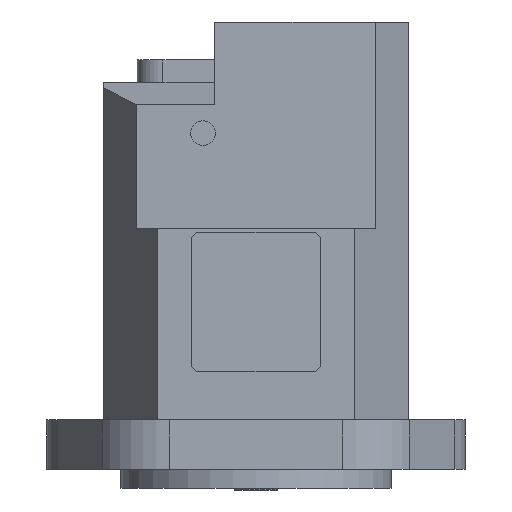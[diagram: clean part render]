
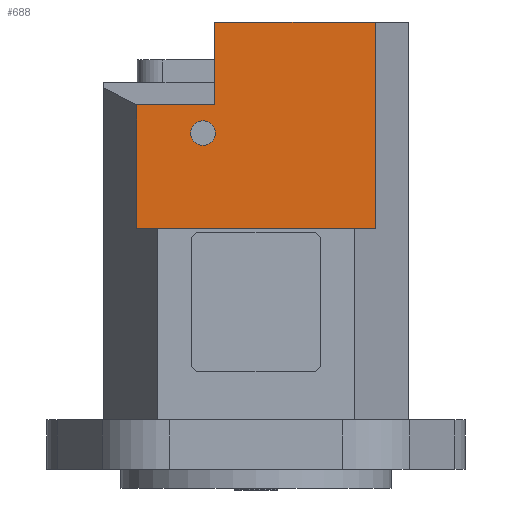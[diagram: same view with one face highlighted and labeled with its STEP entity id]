
A CAD part, front view. The second image highlights one B-rep face of the part: STEP entity #688.
In plain terms, the highlighted planar face has unit normal (0, -1, 0).
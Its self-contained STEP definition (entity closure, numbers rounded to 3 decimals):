
#35 = DIRECTION ( 'NONE',  ( -1., 0., 0. ) ) ;
#227 = FACE_OUTER_BOUND ( 'NONE', #1041, .T. ) ;
#239 = LINE ( 'NONE', #3608, #2247 ) ;
#274 = VERTEX_POINT ( 'NONE', #513 ) ;
#294 = DIRECTION ( 'NONE',  ( -1., 0., 0. ) ) ;
#365 = EDGE_CURVE ( 'NONE', #2613, #2812, #239, .T. ) ;
#513 = CARTESIAN_POINT ( 'NONE',  ( 144.385, -35.982, 69.952 ) ) ;
#524 = DIRECTION ( 'NONE',  ( 0., 0., 1. ) ) ;
#632 = CARTESIAN_POINT ( 'NONE',  ( 0., -35.982, -76.014 ) ) ;
#636 = LINE ( 'NONE', #1632, #1591 ) ;
#650 = DIRECTION ( 'NONE',  ( 0., 1., 0. ) ) ;
#673 = CARTESIAN_POINT ( 'NONE',  ( 206.575, -35.982, -10.048 ) ) ;
#688 = ADVANCED_FACE ( 'NONE', ( #1749, #227 ), #1165, .F. ) ;
#723 = CIRCLE ( 'NONE', #2660, 4.75 ) ;
#734 = ORIENTED_EDGE ( 'NONE', *, *, #3205, .T. ) ;
#788 = ORIENTED_EDGE ( 'NONE', *, *, #3715, .T. ) ;
#863 = CARTESIAN_POINT ( 'NONE',  ( 144.385, -35.982, -76.014 ) ) ;
#870 = EDGE_CURVE ( 'NONE', #1954, #274, #3599, .T. ) ;
#875 = DIRECTION ( 'NONE',  ( 0., -1., 0. ) ) ;
#1034 = CARTESIAN_POINT ( 'NONE',  ( 139.885, -35.982, 26.952 ) ) ;
#1041 = EDGE_LOOP ( 'NONE', ( #788, #734, #1999, #1125, #1914, #2790 ) ) ;
#1048 = CARTESIAN_POINT ( 'NONE',  ( 144.635, -35.982, 26.952 ) ) ;
#1125 = ORIENTED_EDGE ( 'NONE', *, *, #2021, .F. ) ;
#1165 = PLANE ( 'NONE',  #2669 ) ;
#1188 = CARTESIAN_POINT ( 'NONE',  ( 114.194, -35.982, 37.872 ) ) ;
#1189 = DIRECTION ( 'NONE',  ( 1., 0., 0. ) ) ;
#1257 = ORIENTED_EDGE ( 'NONE', *, *, #1807, .F. ) ;
#1260 = CARTESIAN_POINT ( 'NONE',  ( 0., -35.982, 69.952 ) ) ;
#1305 = DIRECTION ( 'NONE',  ( -1., 0., 0. ) ) ;
#1435 = VERTEX_POINT ( 'NONE', #673 ) ;
#1460 = CARTESIAN_POINT ( 'NONE',  ( 206.575, -35.982, 69.952 ) ) ;
#1462 = DIRECTION ( 'NONE',  ( 1., 0., 0. ) ) ;
#1497 = VERTEX_POINT ( 'NONE', #1048 ) ;
#1591 = VECTOR ( 'NONE', #2754, 1000. ) ;
#1632 = CARTESIAN_POINT ( 'NONE',  ( 206.575, -35.982, -76.014 ) ) ;
#1722 = CARTESIAN_POINT ( 'NONE',  ( 139.885, -35.982, 26.952 ) ) ;
#1749 = FACE_BOUND ( 'NONE', #3557, .T. ) ;
#1780 = CARTESIAN_POINT ( 'NONE',  ( 64.885, -35.982, -10.048 ) ) ;
#1807 = EDGE_CURVE ( 'NONE', #2149, #1497, #723, .T. ) ;
#1849 = CARTESIAN_POINT ( 'NONE',  ( 144.385, -35.982, 37.872 ) ) ;
#1914 = ORIENTED_EDGE ( 'NONE', *, *, #2673, .T. ) ;
#1954 = VERTEX_POINT ( 'NONE', #1460 ) ;
#1999 = ORIENTED_EDGE ( 'NONE', *, *, #870, .T. ) ;
#2021 = EDGE_CURVE ( 'NONE', #3399, #274, #2406, .T. ) ;
#2080 = CARTESIAN_POINT ( 'NONE',  ( 114.194, -35.982, -10.048 ) ) ;
#2130 = CIRCLE ( 'NONE', #3729, 4.75 ) ;
#2149 = VERTEX_POINT ( 'NONE', #2821 ) ;
#2211 = DIRECTION ( 'NONE',  ( 0., -1., 0. ) ) ;
#2247 = VECTOR ( 'NONE', #2745, 1000. ) ;
#2406 = LINE ( 'NONE', #863, #3142 ) ;
#2553 = VECTOR ( 'NONE', #294, 1000. ) ;
#2613 = VERTEX_POINT ( 'NONE', #2080 ) ;
#2633 = VECTOR ( 'NONE', #1305, 1000. ) ;
#2660 = AXIS2_PLACEMENT_3D ( 'NONE', #1034, #2211, #2740 ) ;
#2669 = AXIS2_PLACEMENT_3D ( 'NONE', #632, #650, #35 ) ;
#2673 = EDGE_CURVE ( 'NONE', #3399, #2812, #3149, .T. ) ;
#2740 = DIRECTION ( 'NONE',  ( 1., 0., 0. ) ) ;
#2745 = DIRECTION ( 'NONE',  ( 0., 0., 1. ) ) ;
#2754 = DIRECTION ( 'NONE',  ( 0., 0., 1. ) ) ;
#2790 = ORIENTED_EDGE ( 'NONE', *, *, #365, .F. ) ;
#2812 = VERTEX_POINT ( 'NONE', #1188 ) ;
#2821 = CARTESIAN_POINT ( 'NONE',  ( 135.135, -35.982, 26.952 ) ) ;
#2827 = VECTOR ( 'NONE', #1462, 1000. ) ;
#3142 = VECTOR ( 'NONE', #524, 1000. ) ;
#3149 = LINE ( 'NONE', #3213, #2553 ) ;
#3205 = EDGE_CURVE ( 'NONE', #1435, #1954, #636, .T. ) ;
#3213 = CARTESIAN_POINT ( 'NONE',  ( 77.385, -35.982, 37.872 ) ) ;
#3286 = EDGE_CURVE ( 'NONE', #1497, #2149, #2130, .T. ) ;
#3399 = VERTEX_POINT ( 'NONE', #1849 ) ;
#3557 = EDGE_LOOP ( 'NONE', ( #3654, #1257 ) ) ;
#3599 = LINE ( 'NONE', #1260, #2633 ) ;
#3604 = LINE ( 'NONE', #1780, #2827 ) ;
#3608 = CARTESIAN_POINT ( 'NONE',  ( 114.194, -35.982, 85.129 ) ) ;
#3654 = ORIENTED_EDGE ( 'NONE', *, *, #3286, .F. ) ;
#3715 = EDGE_CURVE ( 'NONE', #2613, #1435, #3604, .T. ) ;
#3729 = AXIS2_PLACEMENT_3D ( 'NONE', #1722, #875, #1189 ) ;
